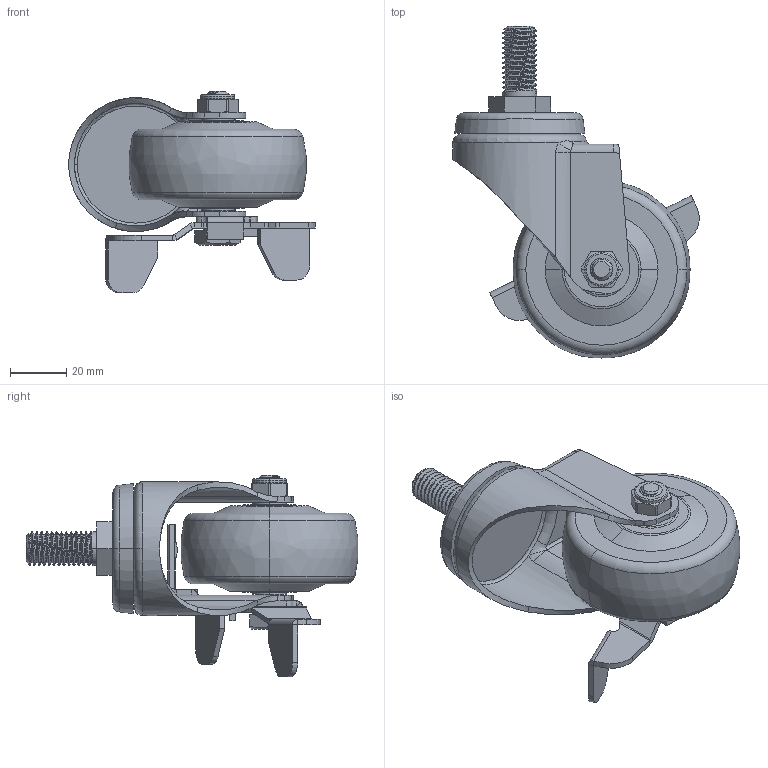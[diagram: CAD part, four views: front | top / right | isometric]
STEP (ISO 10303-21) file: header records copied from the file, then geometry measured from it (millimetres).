
FILE_DESCRIPTION((''),'2;1');
FILE_NAME('361425C-3625-64_ASM','2020-01-05T',('L'),(''),'PRO/ENGINEER BY PARAMETRIC TECHNOLOGY CORPORATION, 2010280','PRO/ENGINEER BY PARAMETRIC TECHNOLOGY CORPORATION, 2010280','');
FILE_SCHEMA(('CONFIG_CONTROL_DESIGN'));
Length unit declared in the file: millimetre
Products named in the file (7): 361425C; 3625-964; 302-33; 300-34; 3025-15; 300-14; 361425C-3625-64_ASM
Assembly tree (6 placements, depth 2):
  361425C-3625-64_ASM
    361425C
    3625-964
    302-33
    300-34
    3025-15
    300-14
Bounding box: 87.35 x 117.66 x 71.4 mm (x, y, z)
Volume: 114587.8 mm3; surface area: 38392.5 mm2
Topology: 7 solids, 7 shells, 397 faces, 953 edges, 586 vertices
Faces by surface type: plane 143, cylinder 139, bspline 59, torus 30, cone 26
Entity records: 19699 total; most frequent: CARTESIAN_POINT 10733, ORIENTED_EDGE 1906, DIRECTION 1703, EDGE_CURVE 953, AXIS2_PLACEMENT_3D 628, VERTEX_POINT 586, VECTOR 447, LINE 447
